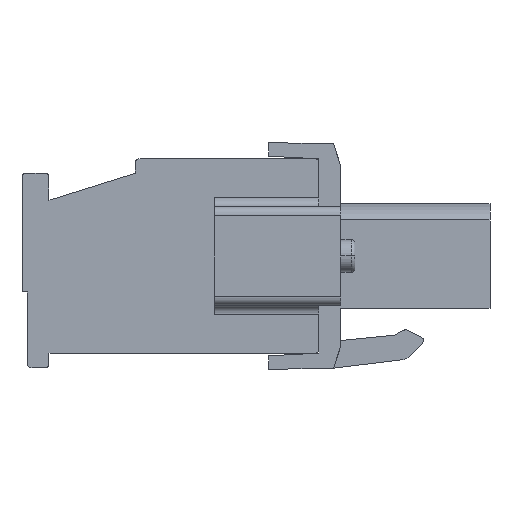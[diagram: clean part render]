
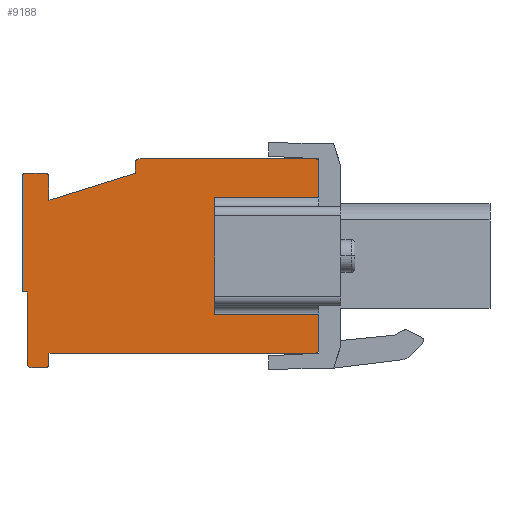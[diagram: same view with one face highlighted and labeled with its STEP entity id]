
A CAD part, left-side view. The second image highlights one B-rep face of the part: STEP entity #9188.
In plain terms, the highlighted planar face has unit normal (-1, 0, 0).
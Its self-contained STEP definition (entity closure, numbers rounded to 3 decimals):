
#276=DIRECTION('',(0.,0.,1.));
#277=VECTOR('',#276,1.95);
#278=CARTESIAN_POINT('',(9.75,9.5,-11.497));
#279=LINE('',#278,#277);
#294=DIRECTION('',(0.,0.,1.));
#295=VECTOR('',#294,1.95);
#296=CARTESIAN_POINT('',(9.75,9.5,-3.047));
#297=LINE('',#296,#295);
#689=DIRECTION('',(0.,0.,-1.));
#690=VECTOR('',#689,6.5);
#691=CARTESIAN_POINT('',(9.75,15.3,-3.047));
#692=LINE('',#691,#690);
#693=CARTESIAN_POINT('',(9.75,9.7,-11.497));
#694=DIRECTION('',(1.,0.,0.));
#695=DIRECTION('',(0.,-1.,0.));
#696=AXIS2_PLACEMENT_3D('',#693,#694,#695);
#698=CARTESIAN_POINT('',(9.75,24.7,-12.297));
#699=DIRECTION('',(1.,0.,0.));
#700=DIRECTION('',(0.,-1.,0.));
#701=AXIS2_PLACEMENT_3D('',#698,#699,#700);
#703=CARTESIAN_POINT('',(9.75,25.5,-12.297));
#704=DIRECTION('',(1.,0.,0.));
#705=DIRECTION('',(0.,0.,-1.));
#706=AXIS2_PLACEMENT_3D('',#703,#704,#705);
#708=CARTESIAN_POINT('',(9.75,25.8,-1.897));
#709=DIRECTION('',(1.,0.,0.));
#710=DIRECTION('',(0.,1.,0.));
#711=AXIS2_PLACEMENT_3D('',#708,#709,#710);
#713=CARTESIAN_POINT('',(9.75,24.7,-1.897));
#714=DIRECTION('',(1.,0.,0.));
#715=DIRECTION('',(0.,0.,1.));
#716=AXIS2_PLACEMENT_3D('',#713,#714,#715);
#718=DIRECTION('',(0.,-0.954,0.298));
#719=VECTOR('',#718,5.029);
#720=CARTESIAN_POINT('',(9.75,24.5,-3.197));
#721=LINE('',#720,#719);
#722=CARTESIAN_POINT('',(9.75,19.5,-1.097));
#723=DIRECTION('',(1.,0.,0.));
#724=DIRECTION('',(0.,1.,0.));
#725=AXIS2_PLACEMENT_3D('',#722,#723,#724);
#727=CARTESIAN_POINT('',(9.75,9.7,-1.097));
#728=DIRECTION('',(1.,0.,0.));
#729=DIRECTION('',(0.,0.,1.));
#730=AXIS2_PLACEMENT_3D('',#727,#728,#729);
#732=DIRECTION('',(0.,-1.,0.));
#733=VECTOR('',#732,5.8);
#734=CARTESIAN_POINT('',(9.75,15.3,-3.047));
#735=LINE('',#734,#733);
#740=DIRECTION('',(0.,1.,0.));
#741=VECTOR('',#740,5.8);
#742=CARTESIAN_POINT('',(9.75,9.5,-9.547));
#743=LINE('',#742,#741);
#2435=DIRECTION('',(0.,-1.,0.));
#2436=VECTOR('',#2435,14.8);
#2437=CARTESIAN_POINT('',(9.75,24.5,-11.697));
#2438=LINE('',#2437,#2436);
#2463=DIRECTION('',(0.,0.,1.));
#2464=VECTOR('',#2463,0.6);
#2465=CARTESIAN_POINT('',(9.75,24.5,-12.297));
#2466=LINE('',#2465,#2464);
#2475=DIRECTION('',(0.,-1.,0.));
#2476=VECTOR('',#2475,0.8);
#2477=CARTESIAN_POINT('',(9.75,25.5,-12.497));
#2478=LINE('',#2477,#2476);
#2491=DIRECTION('',(0.,0.,-1.));
#2492=VECTOR('',#2491,4.);
#2493=CARTESIAN_POINT('',(9.75,25.7,-8.297));
#2494=LINE('',#2493,#2492);
#2499=DIRECTION('',(0.,-1.,0.));
#2500=VECTOR('',#2499,0.3);
#2501=CARTESIAN_POINT('',(9.75,26.,-8.297));
#2502=LINE('',#2501,#2500);
#2503=DIRECTION('',(0.,0.,-1.));
#2504=VECTOR('',#2503,6.4);
#2505=CARTESIAN_POINT('',(9.75,26.,-1.897));
#2506=LINE('',#2505,#2504);
#2575=DIRECTION('',(0.,1.,0.));
#2576=VECTOR('',#2575,1.1);
#2577=CARTESIAN_POINT('',(9.75,24.7,-1.697));
#2578=LINE('',#2577,#2576);
#2591=DIRECTION('',(0.,0.,1.));
#2592=VECTOR('',#2591,1.3);
#2593=CARTESIAN_POINT('',(9.75,24.5,-3.197));
#2594=LINE('',#2593,#2592);
#2599=DIRECTION('',(0.,0.,-1.));
#2600=VECTOR('',#2599,0.6);
#2601=CARTESIAN_POINT('',(9.75,19.7,-1.097));
#2602=LINE('',#2601,#2600);
#2615=DIRECTION('',(0.,1.,0.));
#2616=VECTOR('',#2615,9.8);
#2617=CARTESIAN_POINT('',(9.75,9.7,-0.897));
#2618=LINE('',#2617,#2616);
#7058=CARTESIAN_POINT('',(9.75,9.7,-11.697));
#7059=VERTEX_POINT('',#7058);
#7060=CARTESIAN_POINT('',(9.75,9.5,-11.497));
#7061=VERTEX_POINT('',#7060);
#7062=CARTESIAN_POINT('',(9.75,24.5,-11.697));
#7063=VERTEX_POINT('',#7062);
#7076=CARTESIAN_POINT('',(9.75,24.5,-12.297));
#7077=VERTEX_POINT('',#7076);
#7078=CARTESIAN_POINT('',(9.75,24.7,-12.497));
#7079=VERTEX_POINT('',#7078);
#7080=CARTESIAN_POINT('',(9.75,25.5,-12.497));
#7081=VERTEX_POINT('',#7080);
#7082=CARTESIAN_POINT('',(9.75,25.7,-12.297));
#7083=VERTEX_POINT('',#7082);
#7084=CARTESIAN_POINT('',(9.75,25.7,-8.297));
#7085=VERTEX_POINT('',#7084);
#7086=CARTESIAN_POINT('',(9.75,26.,-8.297));
#7087=VERTEX_POINT('',#7086);
#7088=CARTESIAN_POINT('',(9.75,26.,-1.897));
#7089=VERTEX_POINT('',#7088);
#7114=CARTESIAN_POINT('',(9.75,25.8,-1.697));
#7115=VERTEX_POINT('',#7114);
#7116=CARTESIAN_POINT('',(9.75,24.7,-1.697));
#7117=VERTEX_POINT('',#7116);
#7118=CARTESIAN_POINT('',(9.75,24.5,-1.897));
#7119=VERTEX_POINT('',#7118);
#7120=CARTESIAN_POINT('',(9.75,24.5,-3.197));
#7121=VERTEX_POINT('',#7120);
#7122=CARTESIAN_POINT('',(9.75,19.7,-1.697));
#7123=VERTEX_POINT('',#7122);
#7124=CARTESIAN_POINT('',(9.75,19.7,-1.097));
#7125=VERTEX_POINT('',#7124);
#7126=CARTESIAN_POINT('',(9.75,19.5,-0.897));
#7127=VERTEX_POINT('',#7126);
#7138=CARTESIAN_POINT('',(9.75,9.7,-0.897));
#7139=VERTEX_POINT('',#7138);
#7180=CARTESIAN_POINT('',(9.75,9.5,-1.097));
#7181=VERTEX_POINT('',#7180);
#7627=CARTESIAN_POINT('',(9.75,9.5,-9.547));
#7628=VERTEX_POINT('',#7627);
#7637=CARTESIAN_POINT('',(9.75,9.5,-3.047));
#7638=VERTEX_POINT('',#7637);
#7639=CARTESIAN_POINT('',(9.75,15.3,-3.047));
#7640=VERTEX_POINT('',#7639);
#7641=CARTESIAN_POINT('',(9.75,15.3,-9.547));
#7642=VERTEX_POINT('',#7641);
#9139=CARTESIAN_POINT('',(9.75,9.5,-5.797));
#9140=DIRECTION('',(1.,0.,0.));
#9141=DIRECTION('',(0.,0.,-1.));
#9142=AXIS2_PLACEMENT_3D('',#9139,#9140,#9141);
#9143=PLANE('',#9142);
#9145=ORIENTED_EDGE('',*,*,#9144,.F.);
#9146=ORIENTED_EDGE('',*,*,#8550,.T.);
#9148=ORIENTED_EDGE('',*,*,#9147,.F.);
#9149=ORIENTED_EDGE('',*,*,#8630,.F.);
#9151=ORIENTED_EDGE('',*,*,#9150,.T.);
#9153=ORIENTED_EDGE('',*,*,#9152,.F.);
#9155=ORIENTED_EDGE('',*,*,#9154,.F.);
#9157=ORIENTED_EDGE('',*,*,#9156,.T.);
#9159=ORIENTED_EDGE('',*,*,#9158,.F.);
#9161=ORIENTED_EDGE('',*,*,#9160,.T.);
#9163=ORIENTED_EDGE('',*,*,#9162,.F.);
#9165=ORIENTED_EDGE('',*,*,#9164,.F.);
#9167=ORIENTED_EDGE('',*,*,#9166,.F.);
#9169=ORIENTED_EDGE('',*,*,#9168,.T.);
#9171=ORIENTED_EDGE('',*,*,#9170,.F.);
#9173=ORIENTED_EDGE('',*,*,#9172,.T.);
#9175=ORIENTED_EDGE('',*,*,#9174,.F.);
#9177=ORIENTED_EDGE('',*,*,#9176,.T.);
#9179=ORIENTED_EDGE('',*,*,#9178,.F.);
#9181=ORIENTED_EDGE('',*,*,#9180,.T.);
#9183=ORIENTED_EDGE('',*,*,#9182,.F.);
#9184=ORIENTED_EDGE('',*,*,#9105,.T.);
#9185=ORIENTED_EDGE('',*,*,#8639,.F.);
#9186=EDGE_LOOP('',(#9145,#9146,#9148,#9149,#9151,#9153,#9155,#9157,#9159,#9161,
#9163,#9165,#9167,#9169,#9171,#9173,#9175,#9177,#9179,#9181,#9183,#9184,#9185));
#9187=FACE_OUTER_BOUND('',#9186,.F.);
#9188=ADVANCED_FACE('',(#9187),#9143,.F.);
#697=CIRCLE('',#696,0.2);
#702=CIRCLE('',#701,0.2);
#707=CIRCLE('',#706,0.2);
#712=CIRCLE('',#711,0.2);
#717=CIRCLE('',#716,0.2);
#726=CIRCLE('',#725,0.2);
#731=CIRCLE('',#730,0.2);
#8550=EDGE_CURVE('',#7640,#7642,#692,.T.);
#8630=EDGE_CURVE('',#7061,#7628,#279,.T.);
#8639=EDGE_CURVE('',#7638,#7181,#297,.T.);
#9105=EDGE_CURVE('',#7139,#7181,#731,.T.);
#9144=EDGE_CURVE('',#7640,#7638,#735,.T.);
#9147=EDGE_CURVE('',#7628,#7642,#743,.T.);
#9150=EDGE_CURVE('',#7061,#7059,#697,.T.);
#9152=EDGE_CURVE('',#7063,#7059,#2438,.T.);
#9154=EDGE_CURVE('',#7077,#7063,#2466,.T.);
#9156=EDGE_CURVE('',#7077,#7079,#702,.T.);
#9158=EDGE_CURVE('',#7081,#7079,#2478,.T.);
#9160=EDGE_CURVE('',#7081,#7083,#707,.T.);
#9162=EDGE_CURVE('',#7085,#7083,#2494,.T.);
#9164=EDGE_CURVE('',#7087,#7085,#2502,.T.);
#9166=EDGE_CURVE('',#7089,#7087,#2506,.T.);
#9168=EDGE_CURVE('',#7089,#7115,#712,.T.);
#9170=EDGE_CURVE('',#7117,#7115,#2578,.T.);
#9172=EDGE_CURVE('',#7117,#7119,#717,.T.);
#9174=EDGE_CURVE('',#7121,#7119,#2594,.T.);
#9176=EDGE_CURVE('',#7121,#7123,#721,.T.);
#9178=EDGE_CURVE('',#7125,#7123,#2602,.T.);
#9180=EDGE_CURVE('',#7125,#7127,#726,.T.);
#9182=EDGE_CURVE('',#7139,#7127,#2618,.T.);
